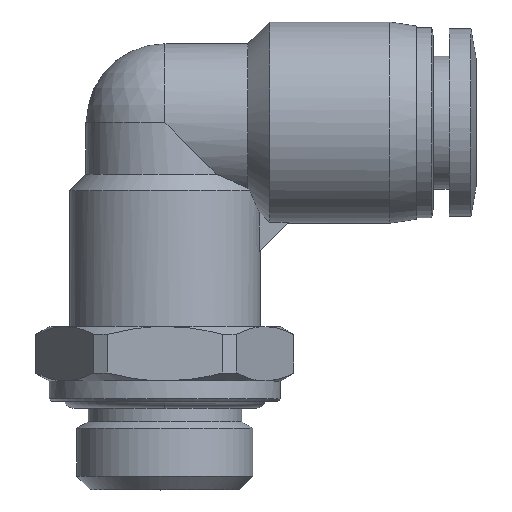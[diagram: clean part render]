
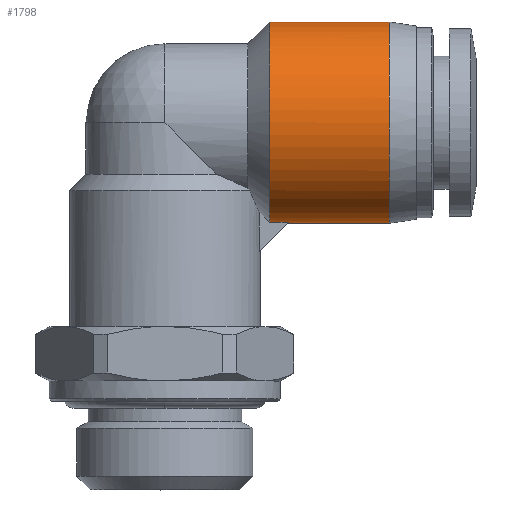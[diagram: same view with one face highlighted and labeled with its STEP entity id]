
A CAD part, top view. The second image highlights one B-rep face of the part: STEP entity #1798.
In plain terms, the highlighted cylindrical face has radius 7.4 mm (diameter 14.8 mm), a partial arc.
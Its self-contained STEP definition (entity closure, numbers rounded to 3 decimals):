
#9 = CARTESIAN_POINT ( 'NONE',  ( 16.5, 10.452, 5.918 ) ) ;
#26 = CARTESIAN_POINT ( 'NONE',  ( 8.612, 7.668, 1. ) ) ;
#114 = DIRECTION ( 'NONE',  ( 1., 0., 0. ) ) ;
#117 = VERTEX_POINT ( 'NONE', #4306 ) ;
#197 = ORIENTED_EDGE ( 'NONE', *, *, #2339, .F. ) ;
#225 = CARTESIAN_POINT ( 'NONE',  ( 7.7, 22.4, 0. ) ) ;
#248 = CARTESIAN_POINT ( 'NONE',  ( 7.7, 11.044, 6.322 ) ) ;
#259 = DIRECTION ( 'NONE',  ( 1., 0., 0. ) ) ;
#362 = CARTESIAN_POINT ( 'NONE',  ( 16.5, 15.969, 7.4 ) ) ;
#375 = DIRECTION ( 'NONE',  ( 1., 0., 0. ) ) ;
#435 = CARTESIAN_POINT ( 'NONE',  ( 16.5, 18.727, 6.466 ) ) ;
#513 = CARTESIAN_POINT ( 'NONE',  ( 7.7, 7.668, 1. ) ) ;
#543 = AXIS2_PLACEMENT_3D ( 'NONE', #986, #259, #4541 ) ;
#561 = B_SPLINE_CURVE_WITH_KNOTS ( 'NONE', 3,
 ( #225, #3777, #3019, #2326, #3061, #1317, #2698, #2657, #1752, #695, #2998, #4101, #248, #937, #581, #3735, #604, #3148 ),
 .UNSPECIFIED., .F., .F.,
 ( 4, 2, 2, 2, 2, 2, 2, 2, 4 ),
 ( 0.5, 0.563, 0.625, 0.688, 0.75, 0.813, 0.875, 0.938, 1. ),
 .UNSPECIFIED. ) ;
#581 = CARTESIAN_POINT ( 'NONE',  ( 7.7, 9., 4.429 ) ) ;
#604 = CARTESIAN_POINT ( 'NONE',  ( 7.7, 7.793, 1.918 ) ) ;
#657 = CARTESIAN_POINT ( 'NONE',  ( 9.068, 7.668, 1. ) ) ;
#679 = CARTESIAN_POINT ( 'NONE',  ( 9.023, 7.622, 0.667 ) ) ;
#694 = CARTESIAN_POINT ( 'NONE',  ( 9., 7.6, 0. ) ) ;
#695 = CARTESIAN_POINT ( 'NONE',  ( 7.7, 14.576, 7.446 ) ) ;
#790 = ORIENTED_EDGE ( 'NONE', *, *, #3352, .F. ) ;
#818 = CARTESIAN_POINT ( 'NONE',  ( 16.5, 7.793, 1.937 ) ) ;
#937 = CARTESIAN_POINT ( 'NONE',  ( 7.7, 9.607, 5.151 ) ) ;
#986 = CARTESIAN_POINT ( 'NONE',  ( 12.1, 15., 0. ) ) ;
#1074 = VERTEX_POINT ( 'NONE', #694 ) ;
#1090 = CARTESIAN_POINT ( 'NONE',  ( 16.5, 22.4, 0. ) ) ;
#1170 = CARTESIAN_POINT ( 'NONE',  ( 16.5, 14.031, 7.4 ) ) ;
#1192 = CARTESIAN_POINT ( 'NONE',  ( 16.5, 22.207, 1.937 ) ) ;
#1296 = CARTESIAN_POINT ( 'NONE',  ( 16.5, 7.6, 0. ) ) ;
#1317 = CARTESIAN_POINT ( 'NONE',  ( 7.7, 19.774, 5.73 ) ) ;
#1462 = EDGE_LOOP ( 'NONE', ( #197, #3063, #3953, #2005, #2400, #790 ) ) ;
#1464 = CARTESIAN_POINT ( 'NONE',  ( 8.156, 7.668, 1. ) ) ;
#1467 = EDGE_CURVE ( 'NONE', #117, #3082, #561, .T. ) ;
#1752 = CARTESIAN_POINT ( 'NONE',  ( 7.7, 16.426, 7.32 ) ) ;
#1766 = FACE_OUTER_BOUND ( 'NONE', #1462, .T. ) ;
#1797 = CARTESIAN_POINT ( 'NONE',  ( 16.5, 21.466, 3.727 ) ) ;
#1798 = ADVANCED_FACE ( 'NONE', ( #1766 ), #2712, .T. ) ;
#1868 = CARTESIAN_POINT ( 'NONE',  ( 16.5, 22.4, 0. ) ) ;
#2005 = ORIENTED_EDGE ( 'NONE', *, *, #2320, .F. ) ;
#2232 = CARTESIAN_POINT ( 'NONE',  ( 16.5, 7.6, 0.969 ) ) ;
#2320 = EDGE_CURVE ( 'NONE', #117, #4271, #2863, .T. ) ;
#2326 = CARTESIAN_POINT ( 'NONE',  ( 7.7, 21.544, 3.578 ) ) ;
#2339 = EDGE_CURVE ( 'NONE', #1074, #4412, #4209, .T. ) ;
#2400 = ORIENTED_EDGE ( 'NONE', *, *, #1467, .T. ) ;
#2451 = CARTESIAN_POINT ( 'NONE',  ( 9.068, 7.668, 1. ) ) ;
#2490 = VECTOR ( 'NONE', #375, 1000. ) ;
#2512 = CARTESIAN_POINT ( 'NONE',  ( 16.5, 9.082, 4.548 ) ) ;
#2589 = CARTESIAN_POINT ( 'NONE',  ( 16.5, 13.063, 7.207 ) ) ;
#2657 = CARTESIAN_POINT ( 'NONE',  ( 7.7, 17.338, 7.082 ) ) ;
#2698 = CARTESIAN_POINT ( 'NONE',  ( 7.7, 19.013, 6.286 ) ) ;
#2712 = CYLINDRICAL_SURFACE ( 'NONE', #543, 7.4 ) ;
#2863 = LINE ( 'NONE', #2889, #2490 ) ;
#2889 = CARTESIAN_POINT ( 'NONE',  ( 12.1, 22.4, 0. ) ) ;
#2977 = CARTESIAN_POINT ( 'NONE',  ( 12.1, 7.6, 0. ) ) ;
#2998 = CARTESIAN_POINT ( 'NONE',  ( 7.7, 13.64, 7.333 ) ) ;
#3019 = CARTESIAN_POINT ( 'NONE',  ( 7.7, 22.224, 1.853 ) ) ;
#3061 = CARTESIAN_POINT ( 'NONE',  ( 7.7, 21.04, 4.375 ) ) ;
#3063 = ORIENTED_EDGE ( 'NONE', *, *, #3466, .T. ) ;
#3082 = VERTEX_POINT ( 'NONE', #513 ) ;
#3148 = CARTESIAN_POINT ( 'NONE',  ( 7.7, 7.668, 1. ) ) ;
#3210 = CARTESIAN_POINT ( 'NONE',  ( 9.068, 7.668, 1. ) ) ;
#3352 = EDGE_CURVE ( 'NONE', #4412, #3082, #4188, .T. ) ;
#3466 = EDGE_CURVE ( 'NONE', #1074, #3798, #3624, .T. ) ;
#3560 = CARTESIAN_POINT ( 'NONE',  ( 16.5, 8.534, 3.727 ) ) ;
#3611 = CARTESIAN_POINT ( 'NONE',  ( 16.5, 20.918, 4.548 ) ) ;
#3624 = LINE ( 'NONE', #2977, #3927 ) ;
#3633 = CARTESIAN_POINT ( 'NONE',  ( 16.5, 19.548, 5.918 ) ) ;
#3735 = CARTESIAN_POINT ( 'NONE',  ( 7.7, 8.093, 2.813 ) ) ;
#3777 = CARTESIAN_POINT ( 'NONE',  ( 7.7, 22.4, 0.927 ) ) ;
#3798 = VERTEX_POINT ( 'NONE', #1296 ) ;
#3922 = CARTESIAN_POINT ( 'NONE',  ( 9., 7.6, 0. ) ) ;
#3927 = VECTOR ( 'NONE', #114, 1000. ) ;
#3953 = ORIENTED_EDGE ( 'NONE', *, *, #4317, .F. ) ;
#3980 = CARTESIAN_POINT ( 'NONE',  ( 16.5, 11.273, 6.466 ) ) ;
#4001 = CARTESIAN_POINT ( 'NONE',  ( 16.5, 7.6, 0. ) ) ;
#4101 = CARTESIAN_POINT ( 'NONE',  ( 7.7, 11.874, 6.771 ) ) ;
#4187 = CARTESIAN_POINT ( 'NONE',  ( 9., 7.6, 0.333 ) ) ;
#4188 = B_SPLINE_CURVE_WITH_KNOTS ( 'NONE', 3,
 ( #3210, #26, #1464, #4265 ),
 .UNSPECIFIED., .F., .F.,
 ( 4, 4 ),
 ( 0., 1. ),
 .UNSPECIFIED. ) ;
#4209 = B_SPLINE_CURVE_WITH_KNOTS ( 'NONE', 3,
 ( #3922, #4187, #679, #2451 ),
 .UNSPECIFIED., .F., .F.,
 ( 4, 4 ),
 ( 0.5, 1. ),
 .UNSPECIFIED. ) ;
#4265 = CARTESIAN_POINT ( 'NONE',  ( 7.7, 7.668, 1. ) ) ;
#4271 = VERTEX_POINT ( 'NONE', #1868 ) ;
#4306 = CARTESIAN_POINT ( 'NONE',  ( 7.7, 22.4, 0. ) ) ;
#4317 = EDGE_CURVE ( 'NONE', #4271, #3798, #4520, .T. ) ;
#4320 = CARTESIAN_POINT ( 'NONE',  ( 16.5, 16.937, 7.207 ) ) ;
#4338 = CARTESIAN_POINT ( 'NONE',  ( 16.5, 22.4, 0.969 ) ) ;
#4412 = VERTEX_POINT ( 'NONE', #657 ) ;
#4520 = B_SPLINE_CURVE_WITH_KNOTS ( 'NONE', 3,
 ( #1090, #4338, #1192, #1797, #3611, #3633, #435, #4320, #362, #1170, #2589, #3980, #9, #2512, #3560, #818, #2232, #4001 ),
 .UNSPECIFIED., .F., .F.,
 ( 4, 2, 2, 2, 2, 2, 2, 2, 4 ),
 ( 0., 0.063, 0.125, 0.188, 0.25, 0.313, 0.375, 0.438, 0.5 ),
 .UNSPECIFIED. ) ;
#4541 = DIRECTION ( 'NONE',  ( 0., 1., 0. ) ) ;
